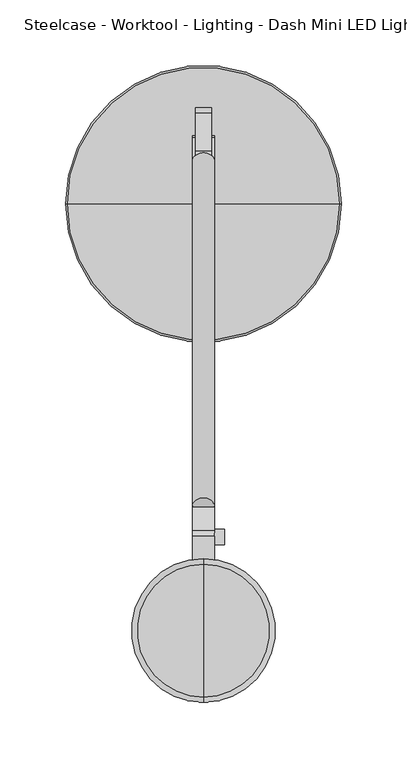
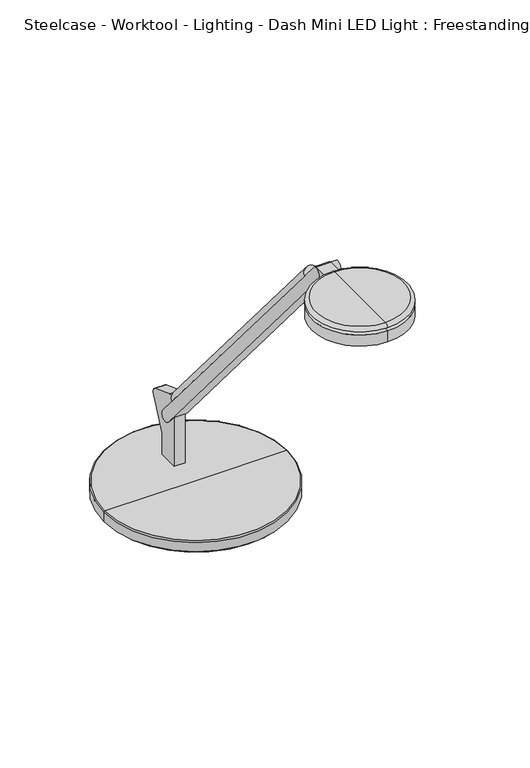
"""IFC4 building model written with IfcOpenShell, lengths in millimetres: furniture geometry, Steelcase - Worktool - Lighting - Dash Mini LED Light : Freestanding."""

import ifcopenshell
import ifcopenshell.guid

model = None  # the IFC model being written
_history = None  # IfcOwnerHistory: only IFC2X3 demands one
_inside = {}  # id of a spatial element -> (the spatial element, [elements in it])
_under = {}  # id of a project, library or spatial element -> (it, [spatial elements below it])
_declared = {}  # id of a project -> (the project, [libraries it declares])
_typed = {}  # id of a type object -> (the type object, [elements of that type])
_made_of = {}  # id of a material, layer set ... -> (it, [elements and type objects made of it])


def new_model(schema):
    """Start an empty IFC model of exactly this schema.

    Asked for "IFC4X3", IfcOpenShell would pick the latest addendum, in which some entities
    have other attributes; the version numbers below select the first issue.
    IFC2X3 requires an IfcOwnerHistory on every rooted entity: one is made here for all.
    """
    global model, _history
    if schema == "IFC4X3":
        model = ifcopenshell.file(schema_version=(4, 3, 0, 0))
    else:
        model = ifcopenshell.file(schema=schema)
    _inside.clear()
    _under.clear()
    _declared.clear()
    _typed.clear()
    _made_of.clear()
    _history = None
    if model.schema == "IFC2X3":
        org = make("IfcOrganization", Name="unknown")
        user = make(
            "IfcPersonAndOrganization",
            ThePerson=make("IfcPerson", FamilyName="unknown"),
            TheOrganization=org,
        )
        app = make(
            "IfcApplication",
            ApplicationDeveloper=org,
            Version="unknown",
            ApplicationFullName="unknown",
            ApplicationIdentifier="unknown",
        )
        _history = make(
            "IfcOwnerHistory",
            OwningUser=user,
            OwningApplication=app,
            ChangeAction="ADDED",
            CreationDate=0,
        )
    return model


def make(cls, **values):
    """One entity of the class cls with the attributes given. An attribute that is None is left unset."""
    return model.create_entity(
        cls, **{name: value for name, value in values.items() if value is not None}
    )


def rooted(cls, **values):
    """An entity with a GlobalId (a new one), such as an element, a storey or a relation."""
    return make(cls, GlobalId=ifcopenshell.guid.new(), OwnerHistory=_history, **values)


def si_unit(unit_type, name, prefix=None):
    """IfcSIUnit, for example si_unit("LENGTHUNIT", "METRE", prefix="MILLI")."""
    return make("IfcSIUnit", UnitType=unit_type, Prefix=prefix, Name=name)


def assignment(units):
    """IfcUnitAssignment: the units of a project."""
    return None if units is None else make("IfcUnitAssignment", Units=units)


def point(xyz):
    """IfcCartesianPoint."""
    return None if xyz is None else make("IfcCartesianPoint", Coordinates=xyz)


def direction(xyz):
    """IfcDirection."""
    return None if xyz is None else make("IfcDirection", DirectionRatios=xyz)


def frame(location, z_axis=None, x_axis=None):
    """IfcAxis2Placement3D, a coordinate frame: its origin and axes. An axis left out is left unset."""
    return make(
        "IfcAxis2Placement3D",
        Location=point(location),
        Axis=direction(z_axis),
        RefDirection=direction(x_axis),
    )


def frame_2d(location, x_axis=None):
    """IfcAxis2Placement2D, a coordinate frame in the plane: its origin and x axis."""
    return make(
        "IfcAxis2Placement2D", Location=point(location), RefDirection=direction(x_axis)
    )


def origin():
    """The frame at (0, 0, 0) with its axes left unset."""
    return frame((0.0, 0.0, 0.0))


def place(relative_to, where):
    """IfcLocalPlacement: puts the frame where relative to a parent placement (None: the world)."""
    return make(
        "IfcLocalPlacement", PlacementRelTo=relative_to, RelativePlacement=where
    )


def context(
    kind, dimensions, precision=None, world=None, true_north=None, identifier=None
):
    """IfcGeometricRepresentationContext, for example the 3D "Model" context."""
    return make(
        "IfcGeometricRepresentationContext",
        ContextIdentifier=identifier,
        ContextType=kind,
        CoordinateSpaceDimension=dimensions,
        Precision=precision,
        WorldCoordinateSystem=world,
        TrueNorth=true_north,
    )


def project(units=None, contexts=None):
    """IfcProject with its units and contexts."""
    return rooted(
        "IfcProject",
        Name="project",
        RepresentationContexts=contexts,
        UnitsInContext=assignment(units),
    )


def spatial(cls, under=None, at=None, **own):
    """A site, building, storey or space (cls), placed at a placement, below another one or the project."""
    s = rooted(cls, ObjectPlacement=at, **own)
    if under is not None:
        _under.setdefault(under.id(), (under, []))[1].append(s)
    return s


def polyline(points):
    """IfcPolyline through the points."""
    return make("IfcPolyline", Points=[point(p) for p in points])


def circle_curve(where, radius):
    """IfcCircle in the frame where."""
    return make("IfcCircle", Position=where, Radius=radius)


def ellipse_curve(where, semi_axis1, semi_axis2):
    """IfcEllipse in the frame where."""
    return make(
        "IfcEllipse", Position=where, SemiAxis1=semi_axis1, SemiAxis2=semi_axis2
    )


def trimmed(basis, trim1, trim2, sense, master):
    """IfcTrimmedCurve: the piece of a basis curve between two trims."""
    return make(
        "IfcTrimmedCurve",
        BasisCurve=basis,
        Trim1=trim1,
        Trim2=trim2,
        SenseAgreement=sense,
        MasterRepresentation=master,
    )


def segment(curve, same_sense, transition):
    """IfcCompositeCurveSegment."""
    return make(
        "IfcCompositeCurveSegment",
        Transition=transition,
        SameSense=same_sense,
        ParentCurve=curve,
    )


def composite_curve(segments, self_intersect=None):
    """IfcCompositeCurve: segments joined end to end."""
    return make("IfcCompositeCurve", Segments=segments, SelfIntersect=self_intersect)


def outline(outer, holes=None, kind="AREA"):
    """IfcArbitraryClosedProfileDef: a profile drawn as a closed curve; with holes, ...WithVoids."""
    if holes is None:
        return make("IfcArbitraryClosedProfileDef", ProfileType=kind, OuterCurve=outer)
    return make(
        "IfcArbitraryProfileDefWithVoids",
        ProfileType=kind,
        OuterCurve=outer,
        InnerCurves=holes,
    )


def extrude(swept, where, along, depth):
    """IfcExtrudedAreaSolid: the profile swept, set in the frame where, extruded along a direction by depth."""
    return make(
        "IfcExtrudedAreaSolid",
        SweptArea=swept,
        Position=where,
        ExtrudedDirection=direction(along),
        Depth=depth,
    )


def shape(context_of_items, identifier, shape_type, items):
    """IfcShapeRepresentation: the items that make up one representation, for example the "Body"."""
    return make(
        "IfcShapeRepresentation",
        ContextOfItems=context_of_items,
        RepresentationIdentifier=identifier,
        RepresentationType=shape_type,
        Items=items,
    )


def source(mapping_origin, context_of_items, identifier, shape_type, items):
    """IfcRepresentationMap: a shape defined once, which mapped items show again and again."""
    return make(
        "IfcRepresentationMap",
        MappingOrigin=mapping_origin,
        MappedRepresentation=shape(context_of_items, identifier, shape_type, items),
    )


def transform(
    local_origin,
    x_axis=None,
    y_axis=None,
    z_axis=None,
    scale=None,
    scale2=None,
    scale3=None,
    uniform=True,
):
    """IfcCartesianTransformationOperator3D, or its non-uniform kind. x_axis, y_axis, z_axis: its Axis1, 2, 3."""
    if uniform:
        return make(
            "IfcCartesianTransformationOperator3D",
            Axis1=direction(x_axis),
            Axis2=direction(y_axis),
            LocalOrigin=point(local_origin),
            Scale=scale,
            Axis3=direction(z_axis),
        )
    return make(
        "IfcCartesianTransformationOperator3DnonUniform",
        Axis1=direction(x_axis),
        Axis2=direction(y_axis),
        LocalOrigin=point(local_origin),
        Scale=scale,
        Axis3=direction(z_axis),
        Scale2=scale2,
        Scale3=scale3,
    )


def mapped(mapping_source, mapping_target):
    """IfcMappedItem: shows the shape of a source again, moved by a transform."""
    return make(
        "IfcMappedItem", MappingSource=mapping_source, MappingTarget=mapping_target
    )


def made_of(thing, what):
    """Note that an element or type object is made of a material, layer set ...; save() writes the relation."""
    if what is not None:
        _made_of.setdefault(what.id(), (what, []))[1].append(thing)
    return thing


def element(
    cls,
    number,
    at=None,
    inside=None,
    cuts=None,
    type_object=None,
    material=None,
    context=None,
    identifier="Body",
    shape_type=None,
    held_by="IfcProductDefinitionShape",
    body=None,
    shapes=None,
    **own,
):
    """One element of the class cls, such as IfcWall. Its Tag is "e" and its number.

    at: its placement. inside: the storey or other place that contains it. cuts: it is an
    opening in that element (IfcRelVoidsElement). A single representation is given by context,
    identifier, shape_type and body (its items); several are given by shapes. held_by: the class
    of the entity that holds the representations. save() writes the other relations.
    """
    e = rooted(cls, Tag="e%d" % number, ObjectPlacement=at, **own)
    if body is not None:
        shapes = [shape(context, identifier, shape_type, body)]
    if shapes is not None:
        e.Representation = make(held_by, Representations=shapes)
    if inside is not None:
        _inside.setdefault(inside.id(), (inside, []))[1].append(e)
    if cuts is not None:
        rooted(
            "IfcRelVoidsElement", RelatingBuildingElement=cuts, RelatedOpeningElement=e
        )
    if type_object is not None:
        _typed.setdefault(type_object.id(), (type_object, []))[1].append(e)
    return made_of(e, material)


def aggregate(whole, parts):
    """IfcRelAggregates: a whole, such as a stair, and the parts it consists of."""
    return rooted("IfcRelAggregates", RelatingObject=whole, RelatedObjects=parts)


def save(model, path):
    """Write the relations noted so far, then the file.

    IfcRelAggregates (storeys below a building ...), IfcRelContainedInSpatialStructure (elements
    in a storey), IfcRelDefinesByType, IfcRelAssociatesMaterial and IfcRelDeclares: one each for
    every whole, place, type object, material and project.
    """
    for whole, parts in _under.values():
        aggregate(whole, parts)
    for where, things in _inside.values():
        rooted(
            "IfcRelContainedInSpatialStructure",
            RelatedElements=things,
            RelatingStructure=where,
        )
    for kind, things in _typed.values():
        rooted("IfcRelDefinesByType", RelatedObjects=things, RelatingType=kind)
    for what, things in _made_of.values():
        rooted("IfcRelAssociatesMaterial", RelatedObjects=things, RelatingMaterial=what)
    for by, libraries in _declared.values():
        rooted("IfcRelDeclares", RelatingContext=by, RelatedDefinitions=libraries)
    model.write(path)


def plane_surface(at):
    """IfcPlane: the flat surface through the origin of the frame at, square to its z axis."""
    return make("IfcPlane", Position=at)


def cylinder_surface(at, radius):
    """IfcCylindricalSurface: all points at the distance radius from the z axis of the frame at."""
    return make("IfcCylindricalSurface", Position=at, Radius=radius)


def revolved_surface(curve, axis_point, axis_direction):
    """IfcSurfaceOfRevolution: the curve turned about the line through axis_point along axis_direction."""
    return make(
        "IfcSurfaceOfRevolution",
        SweptCurve=make("IfcArbitraryOpenProfileDef", ProfileType="CURVE", Curve=curve),
        AxisPosition=make("IfcAxis1Placement", Location=point(axis_point), Axis=direction(axis_direction)),
    )


def advanced_brep(points, edges, surfaces, faces):
    """IfcAdvancedBrep: a solid bounded by faces that lie on surfaces and meet in shared edges.

    An edge is (start, end): straight between two places in points (the first is 0);
    or (start, end, curve); or (start, end, curve, False) where it runs against its curve.
    A face is (place in surfaces, loops), or (place, loops, False) where it looks against
    its surface's normal. A loop lists edges by number (the first is 1), with a minus sign
    where the edge is run from its end to its start. The first loop is the outer one.
    """
    corners = [point(p) for p in points]
    vertices = [make("IfcVertexPoint", VertexGeometry=c) for c in corners]
    made = []
    for start, end, *more in edges:
        made.append(
            make(
                "IfcEdgeCurve",
                EdgeStart=vertices[start],
                EdgeEnd=vertices[end],
                EdgeGeometry=more[0] if more else make("IfcPolyline", Points=[corners[start], corners[end]]),
                SameSense=more[1] if len(more) > 1 else True,
            )
        )
    hull = []
    for where, loops, *sense in faces:
        bounds = []
        for j, loop in enumerate(loops):
            ring = [make("IfcOrientedEdge", EdgeElement=made[abs(k) - 1], Orientation=k > 0) for k in loop]
            bounds.append(
                make(
                    "IfcFaceOuterBound" if j == 0 else "IfcFaceBound",
                    Bound=make("IfcEdgeLoop", EdgeList=ring),
                    Orientation=True,
                )
            )
        hull.append(make("IfcAdvancedFace", Bounds=bounds, FaceSurface=surfaces[where], SameSense=sense[0] if sense else True))
    return make("IfcAdvancedBrep", Outer=make("IfcClosedShell", CfsFaces=hull))


def steelcase_worktool_lighting_dash_mini_led_light_freestanding_f6508700(model_context):
    return source(origin(), model_context, "Body", "SolidModel", [
        extrude(outline(composite_curve([segment(polyline([(8.509, -161.2861314), (-8.509, -161.2861314)]), True, "CONTINUOUS"), segment(trimmed(circle_curve(frame_2d((0.0, -161.2861314)), 8.509), [point((-8.509, -161.2861314))], [point((8.509, -161.2861314))], False, "CARTESIAN"), True, "CONTINUOUS")], self_intersect=False)), frame((0.0, 59.9275977, 934.0367561), z_axis=(0.0, -0.6453157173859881, 0.7639159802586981), x_axis=(1.0, 0.0, 0.0)), (0.0, 0.0, 1.0), 407.9752226),
        extrude(outline(composite_curve([segment(polyline([(1165.3599936, -383.6426805), (1162.4056, -381.1636499), (1162.4056, -366.3659959), (1151.5508717, -366.3659959), (1151.5508717, -352.0202702), (1154.3820582, -354.4102311)]), True, "CONTINUOUS"), segment(trimmed(circle_curve(frame_2d((1158.6105852, -349.1496158)), 6.7494084), [point((1154.3820582, -354.4102311))], [point((1165.3599936, -349.1496158))], True, "CARTESIAN"), True, "CONTINUOUS"), segment(polyline([(1165.3599936, -349.1496158), (1165.3599936, -383.6426805)]), True, "CONTINUOUS")], self_intersect=False)), frame((8.509, 0.0, 0.0), z_axis=(-1.0, 0.0, 0.0), x_axis=(0.0, 0.0, 1.0)), (0.0, 0.0, 1.0), 17.018),
        extrude(outline(composite_curve([segment(trimmed(circle_curve(frame_2d((-349.5772033, 1158.8861373)), 5.8982953), [point((-343.678908, 1158.8861373))], [point((-355.4754986, 1158.8861373))], False, "CARTESIAN"), True, "CONTINUOUS"), segment(trimmed(circle_curve(frame_2d((-349.5772033, 1158.8861373)), 5.8982953), [point((-355.4754986, 1158.8861373))], [point((-343.678908, 1158.8861373))], False, "CARTESIAN"), True, "CONTINUOUS")], self_intersect=False)), frame((8.509, 0.0, 0.0), z_axis=(1.0, 0.0, 0.0), x_axis=(0.0, 1.0, 0.0)), (0.0, 0.0, 1.0), 7.5184),
        extrude(outline(composite_curve([segment(trimmed(circle_curve(frame_2d((-57.2760289, 827.3462287)), 6.4968459), [point((-63.6335559, 826.008))], [point((-54.9477675, 833.4115568))], False, "CARTESIAN"), True, "CONTINUOUS"), segment(polyline([(-54.9477675, 833.4115568), (-26.3337634, 822.4276697)]), True, "CONTINUOUS"), segment(trimmed(circle_curve(frame_2d((-28.6602337, 816.3670075)), 6.491848), [point((-26.3337634, 822.4276697))], [point((-24.0322898, 811.8144009))], False, "CARTESIAN"), True, "CONTINUOUS"), segment(polyline([(-24.0322898, 811.8144009), (-39.5289559, 777.008319), (-39.5289559, 750.951), (-63.6335559, 750.951), (-63.6335559, 826.008)]), True, "CONTINUOUS")], self_intersect=False)), frame((-6.223, 0.0, 0.0), z_axis=(1.0, 0.0, 0.0), x_axis=(0.0, 1.0, 0.0)), (0.0, 0.0, 1.0), 12.446),
        advanced_brep(
        [(0.0, -95.563788, 750.9476331), (103.8479, -95.563788, 750.9476331), (-103.8479, -95.563788, 750.9476331), (-93.0792702, -95.563788, 731.9816908), (93.0792702, -95.563788, 731.9816908), (0.0, -95.563788, 731.9816908), (-93.0792702, -95.563788, 732.8852565), (93.0792702, -95.563788, 732.8852565), (-95.8939876, -95.563788, 732.8852565), (95.8939876, -95.563788, 732.8852565), (-102.4300117, -95.563788, 735.7952819), (102.4300117, -95.563788, 735.7952819), (-102.4300117, -95.563788, 738.6286331), (102.4300117, -95.563788, 738.6286331), (-105.3308643, -95.563788, 738.6286331), (105.3308643, -95.563788, 738.6286331), (-105.3308643, -95.563788, 749.4646687), (105.3308643, -95.563788, 749.4646687)],
        [
            (0, 1),
            (1, 2, circle_curve(frame((0.0, -95.563788, 750.9476331), z_axis=(0.0, 0.0, 1.0), x_axis=(1.0, 0.0, 0.0)), 103.8479)),
            (2, 0),
            (2, 1, circle_curve(frame((0.0, -95.563788, 750.9476331), z_axis=(0.0, 0.0, 1.0), x_axis=(1.0, 0.0, 0.0)), 103.8479)),
            (3, 4, circle_curve(frame((0.0, -95.563788, 731.9816908), z_axis=(0.0, 0.0, -1.0), x_axis=(1.0, 0.0, 0.0)), 93.0792702)),
            (4, 5),
            (5, 3),
            (4, 3, circle_curve(frame((0.0, -95.563788, 731.9816908), z_axis=(0.0, 0.0, -1.0), x_axis=(1.0, 0.0, 0.0)), 93.0792702)),
            (6, 7, circle_curve(frame((0.0, -95.563788, 732.8852565), z_axis=(0.0, 0.0, -1.0), x_axis=(1.0, 0.0, 0.0)), 93.0792702)),
            (7, 4),
            (3, 6),
            (7, 6, circle_curve(frame((0.0, -95.563788, 732.8852565), z_axis=(0.0, 0.0, -1.0), x_axis=(1.0, 0.0, 0.0)), 93.0792702)),
            (8, 9, circle_curve(frame((0.0, -95.563788, 732.8852565), z_axis=(0.0, 0.0, -1.0), x_axis=(1.0, 0.0, 0.0)), 95.8939876)),
            (9, 7),
            (6, 8),
            (9, 8, circle_curve(frame((0.0, -95.563788, 732.8852565), z_axis=(0.0, 0.0, -1.0), x_axis=(1.0, 0.0, 0.0)), 95.8939876)),
            (10, 11, circle_curve(frame((0.0, -95.563788, 735.7952819), z_axis=(0.0, 0.0, -1.0), x_axis=(1.0, 0.0, 0.0)), 102.4300117)),
            (11, 9),
            (8, 10),
            (11, 10, circle_curve(frame((0.0, -95.563788, 735.7952819), z_axis=(0.0, 0.0, -1.0), x_axis=(1.0, 0.0, 0.0)), 102.4300117)),
            (12, 13, circle_curve(frame((0.0, -95.563788, 738.6286331), z_axis=(0.0, 0.0, -1.0), x_axis=(1.0, 0.0, 0.0)), 102.4300117)),
            (13, 11),
            (10, 12),
            (13, 12, circle_curve(frame((0.0, -95.563788, 738.6286331), z_axis=(0.0, 0.0, -1.0), x_axis=(1.0, 0.0, 0.0)), 102.4300117)),
            (14, 15, circle_curve(frame((0.0, -95.563788, 738.6286331), z_axis=(0.0, 0.0, -1.0), x_axis=(1.0, 0.0, 0.0)), 105.3308643)),
            (15, 13),
            (12, 14),
            (15, 14, circle_curve(frame((0.0, -95.563788, 738.6286331), z_axis=(0.0, 0.0, -1.0), x_axis=(1.0, 0.0, 0.0)), 105.3308643)),
            (16, 17, circle_curve(frame((0.0, -95.563788, 749.4646687), z_axis=(0.0, 0.0, -1.0), x_axis=(1.0, 0.0, 0.0)), 105.3308643)),
            (17, 15),
            (14, 16),
            (17, 16, circle_curve(frame((0.0, -95.563788, 749.4646687), z_axis=(0.0, 0.0, -1.0), x_axis=(1.0, 0.0, 0.0)), 105.3308643)),
            (1, 17, circle_curve(frame((103.8479, -95.563788, 749.4646687), z_axis=(0.0, 1.0, 0.0), x_axis=(1.0, 0.0, 0.0)), 1.4829643)),
            (16, 2, circle_curve(frame((-103.8479, -95.563788, 749.4646687), z_axis=(0.0, 1.0, 0.0), x_axis=(-1.0, 0.0, 0.0)), 1.4829643)),
        ],
        [
            plane_surface(frame((0.0, -95.563788, 750.9476331), z_axis=(0.0, 0.0, 1.0), x_axis=(1.0, 0.0, 0.0))),
            plane_surface(frame((0.0, -95.563788, 731.9816908), z_axis=(0.0, 0.0, -1.0), x_axis=(1.0, 0.0, 0.0))),
            cylinder_surface(frame((0.0, -95.563788, 757.2976331), z_axis=(0.0, 0.0, 1.0), x_axis=(1.0, 0.0, 0.0)), 93.0792702),
            plane_surface(frame((0.0, -95.563788, 732.8852565), z_axis=(0.0, 0.0, -1.0), x_axis=(1.0, 0.0, 0.0))),
            revolved_surface(polyline([(95.8939876, -95.563788, 732.8852565), (102.4300117, -95.563788, 735.7952819)]), (0.0, -95.563788, 757.2976331), (0.0, 0.0, 1.0)),
            cylinder_surface(frame((0.0, -95.563788, 757.2976331), z_axis=(0.0, 0.0, 1.0), x_axis=(1.0, 0.0, 0.0)), 102.4300117),
            plane_surface(frame((0.0, -95.563788, 738.6286331), z_axis=(0.0, 0.0, -1.0), x_axis=(1.0, 0.0, 0.0))),
            cylinder_surface(frame((0.0, -95.563788, 757.2976331), z_axis=(0.0, 0.0, 1.0), x_axis=(1.0, 0.0, 0.0)), 105.3308643),
            revolved_surface(trimmed(ellipse_curve(frame((103.8479, -95.563788, 749.4646687), z_axis=(0.0, -1.0, 0.0), x_axis=(1.0, 0.0, 0.0)), 1.4829643, 1.4829643), [point((105.3308643, -95.563788, 749.4646687))], [point((103.8479, -95.563788, 750.9476331))], True, "CARTESIAN"), (0.0, -95.563788, 757.2976331), (0.0, 0.0, 1.0)),
        ],
        [
            (0, [[1, 2, 3]]),
            (0, [[-3, 4, -1]]),
            (1, [[5, 6, 7]]),
            (1, [[8, -7, -6]]),
            (2, [[9, 10, -5, 11]]),
            (2, [[12, -11, -8, -10]]),
            (3, [[13, 14, -9, 15]]),
            (3, [[16, -15, -12, -14]]),
            (4, [[17, 18, -13, 19]]),
            (4, [[20, -19, -16, -18]]),
            (5, [[21, 22, -17, 23]]),
            (5, [[24, -23, -20, -22]]),
            (6, [[25, 26, -21, 27]]),
            (6, [[28, -27, -24, -26]]),
            (7, [[29, 30, -25, 31]]),
            (7, [[32, -31, -28, -30]]),
            (8, [[-2, 33, -29, 34]]),
            (8, [[-4, -34, -32, -33]]),
        ],
    ),
        advanced_brep(
        [(0.0, -366.3659959, 1166.2156), (0.0, -475.8399959, 1166.2156), (0.0, -471.7839412, 1170.0256), (0.0, -370.4220506, 1170.0256), (0.0, -384.354515, 1166.2156), (0.0, -457.8514768, 1166.2156), (0.0, -381.6867242, 1162.4056), (0.0, -460.5192676, 1162.4056), (0.0, -366.3659959, 1162.4056), (0.0, -475.8399959, 1162.4056), (0.0, -366.3659959, 1149.0706), (0.0, -475.8399959, 1149.0706), (0.0, -421.1029959, 1149.0706), (0.0, -421.1029959, 1170.0256)],
        [
            (0, 1, circle_curve(frame((0.0, -421.1029959, 1166.2156), z_axis=(0.0, 0.0, 1.0), x_axis=(0.0, -1.0, 0.0)), 54.737)),
            (1, 2, circle_curve(frame((0.0, -471.7839412, 1165.9616), z_axis=(-1.0, 0.0, 0.0), x_axis=(0.0, -1.0, 0.0)), 4.064)),
            (2, 3, circle_curve(frame((0.0, -421.1029959, 1170.0256), z_axis=(0.0, 0.0, -1.0), x_axis=(0.0, -1.0, 0.0)), 50.6809453)),
            (3, 0, circle_curve(frame((0.0, -370.4220506, 1165.9616), z_axis=(-1.0, 0.0, 0.0), x_axis=(0.0, 1.0, 0.0)), 4.064)),
            (1, 0, circle_curve(frame((0.0, -421.1029959, 1166.2156), z_axis=(0.0, 0.0, 1.0), x_axis=(0.0, -1.0, 0.0)), 54.737)),
            (3, 2, circle_curve(frame((0.0, -421.1029959, 1170.0256), z_axis=(0.0, 0.0, -1.0), x_axis=(0.0, -1.0, 0.0)), 50.6809453)),
            (4, 5, circle_curve(frame((0.0, -421.1029959, 1166.2156), z_axis=(0.0, 0.0, 1.0), x_axis=(0.0, -1.0, 0.0)), 36.7484809)),
            (5, 1),
            (0, 4),
            (5, 4, circle_curve(frame((0.0, -421.1029959, 1166.2156), z_axis=(0.0, 0.0, 1.0), x_axis=(0.0, -1.0, 0.0)), 36.7484809)),
            (6, 7, circle_curve(frame((0.0, -421.1029959, 1162.4056), z_axis=(0.0, 0.0, 1.0), x_axis=(0.0, -1.0, 0.0)), 39.4162717)),
            (7, 5),
            (4, 6),
            (7, 6, circle_curve(frame((0.0, -421.1029959, 1162.4056), z_axis=(0.0, 0.0, 1.0), x_axis=(0.0, -1.0, 0.0)), 39.4162717)),
            (8, 9, circle_curve(frame((0.0, -421.1029959, 1162.4056), z_axis=(0.0, 0.0, 1.0), x_axis=(0.0, -1.0, 0.0)), 54.737)),
            (9, 7),
            (6, 8),
            (9, 8, circle_curve(frame((0.0, -421.1029959, 1162.4056), z_axis=(0.0, 0.0, 1.0), x_axis=(0.0, -1.0, 0.0)), 54.737)),
            (10, 11, circle_curve(frame((0.0, -421.1029959, 1149.0706), z_axis=(0.0, 0.0, 1.0), x_axis=(0.0, -1.0, 0.0)), 54.737)),
            (11, 9),
            (8, 10),
            (11, 10, circle_curve(frame((0.0, -421.1029959, 1149.0706), z_axis=(0.0, 0.0, 1.0), x_axis=(0.0, -1.0, 0.0)), 54.737)),
            (12, 11),
            (10, 12),
            (2, 13),
            (13, 3),
        ],
        [
            revolved_surface(trimmed(ellipse_curve(frame((0.0, -471.7839412, 1165.9616), z_axis=(1.0, 0.0, 0.0), x_axis=(0.0, -1.0, 0.0)), 4.064, 4.064), [point((0.0, -471.7839412, 1170.0256))], [point((0.0, -475.8399959, 1166.2156))], True, "CARTESIAN"), (0.0, -421.1029959, 1170.0256), (0.0, 0.0, -1.0)),
            plane_surface(frame((0.0, -421.1029959, 1166.2156), z_axis=(0.0, 0.0, -1.0), x_axis=(0.0, -1.0, 0.0))),
            revolved_surface(polyline([(0.0, -457.8514768, 1166.2156), (0.0, -460.5192676, 1162.4056)]), (0.0, -421.1029959, 1170.0256), (0.0, 0.0, -1.0)),
            plane_surface(frame((0.0, -421.1029959, 1162.4056), z_axis=(0.0, 0.0, 1.0), x_axis=(0.0, -1.0, 0.0))),
            cylinder_surface(frame((0.0, -421.1029959, 1170.0256), z_axis=(0.0, 0.0, -1.0), x_axis=(0.0, -1.0, 0.0)), 54.737),
            plane_surface(frame((0.0, -421.1029959, 1149.0706), z_axis=(0.0, 0.0, -1.0), x_axis=(0.0, -1.0, 0.0))),
            plane_surface(frame((0.0, -421.1029959, 1170.0256), z_axis=(0.0, 0.0, 1.0), x_axis=(0.0, -1.0, 0.0))),
        ],
        [
            (0, [[1, 2, 3, 4]]),
            (0, [[5, -4, 6, -2]]),
            (1, [[7, 8, -1, 9]]),
            (1, [[10, -9, -5, -8]]),
            (2, [[11, 12, -7, 13]]),
            (2, [[14, -13, -10, -12]]),
            (3, [[15, 16, -11, 17]]),
            (3, [[18, -17, -14, -16]]),
            (4, [[19, 20, -15, 21]]),
            (4, [[22, -21, -18, -20]]),
            (5, [[23, -19, 24]]),
            (5, [[-24, -22, -23]]),
            (6, [[-3, 25, 26]]),
            (6, [[-6, -26, -25]]),
        ],
    ),
        extrude(outline(composite_curve([segment(trimmed(circle_curve(frame_2d((-50.3508694, 804.4209036)), 6.6004988), [point((-45.3086429, 808.6803092))], [point((-55.394567, 800.16324))], False, "CARTESIAN"), True, "CONTINUOUS"), segment(polyline([(-55.394567, 800.16324), (-354.4102311, 1154.3820582)]), True, "CONTINUOUS"), segment(trimmed(circle_curve(frame_2d((-349.4277131, 1158.5880769)), 6.5204355), [point((-354.4102311, 1154.3820582))], [point((-344.4466482, 1162.7958164))], False, "CARTESIAN"), True, "CONTINUOUS"), segment(polyline([(-344.4466482, 1162.7958164), (-45.3086429, 808.6803092)]), True, "CONTINUOUS")], self_intersect=False)), frame((-8.509, 0.0, 0.0), z_axis=(1.0, 0.0, 0.0), x_axis=(0.0, 1.0, 0.0)), (0.0, 0.0, 1.0), 17.018),
    ])


if __name__ == "__main__":
    model = new_model("IFC4")
    model_context = context("Model", 3, world=origin())
    ifc_project = project(units=[si_unit("LENGTHUNIT", "METRE", prefix="MILLI")], contexts=[model_context])
    site = spatial("IfcSite", under=ifc_project)
    building = spatial("IfcBuilding", under=site)
    placement = place(None, origin())
    steelcase_worktool_lighting_dash_mini_led_light_freestanding_shape = steelcase_worktool_lighting_dash_mini_led_light_freestanding_f6508700(model_context)
    element("IfcFurniture", 1, ObjectType="Steelcase - Worktool - Lighting - Dash Mini LED Light : Freestanding", at=placement, inside=building, context=model_context, shape_type="MappedRepresentation", body=[
        mapped(steelcase_worktool_lighting_dash_mini_led_light_freestanding_shape, transform((0.0, 0.0, 0.0), x_axis=(1.0, 0.0, 0.0), y_axis=(0.0, 1.0, 0.0), z_axis=(0.0, 0.0, 1.0))),
    ])
    save(model, "model.ifc")
